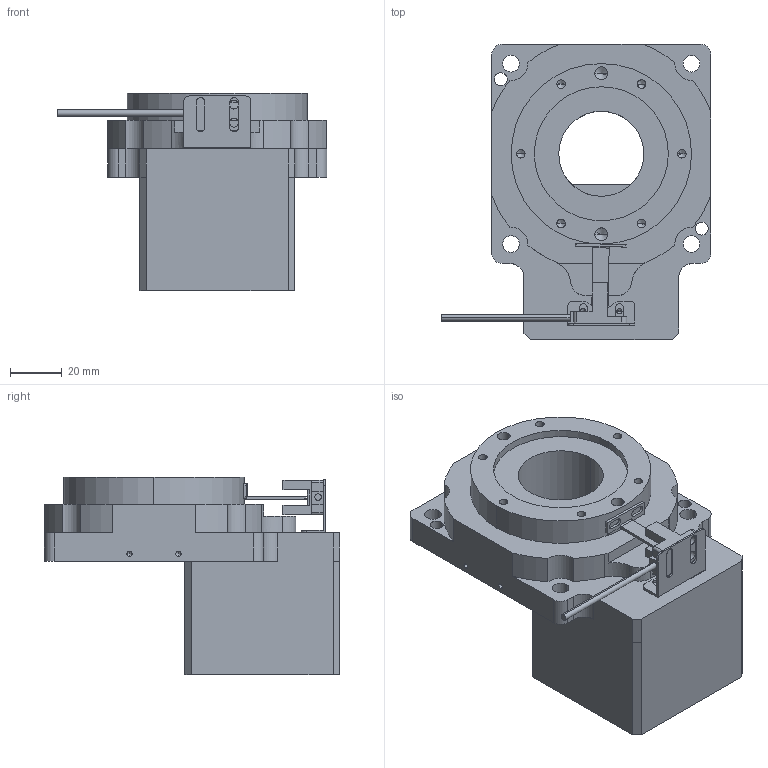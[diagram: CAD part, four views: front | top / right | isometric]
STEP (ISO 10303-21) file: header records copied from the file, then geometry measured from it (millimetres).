
FILE_DESCRIPTION (( 'STEP AP203' ), '1' );
FILE_NAME ('RTN85-18K-8-38.10-47.14-M4(57²½½ø).STEP', '2024-05-21T09:57:04', ( '' ), ( '' ), 'SwSTEP 2.0', 'SolidWorks 2023', '' );
FILE_SCHEMA (( 'CONFIG_CONTROL_DESIGN' ));
Length unit declared in the file: millimetre
Products named in the file (1): RTN85-18K-8-38.10-47.14-M4(57步进)
Bounding box: 104.64 x 114.5 x 76.5 mm (x, y, z)
Volume: 324502.6 mm3; surface area: 48093.5 mm2
Topology: 4 solids, 6 shells, 281 faces, 747 edges, 464 vertices
Faces by surface type: cylinder 126, plane 115, cone 40
Entity records: 8590 total; most frequent: DIRECTION 1525, CARTESIAN_POINT 1459, ORIENTED_EDGE 1414, EDGE_CURVE 707, AXIS2_PLACEMENT_3D 538, VERTEX_POINT 464, VECTOR 449, LINE 449
